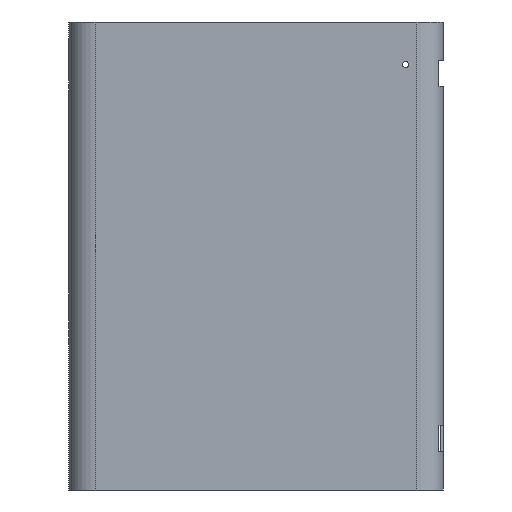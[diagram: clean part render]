
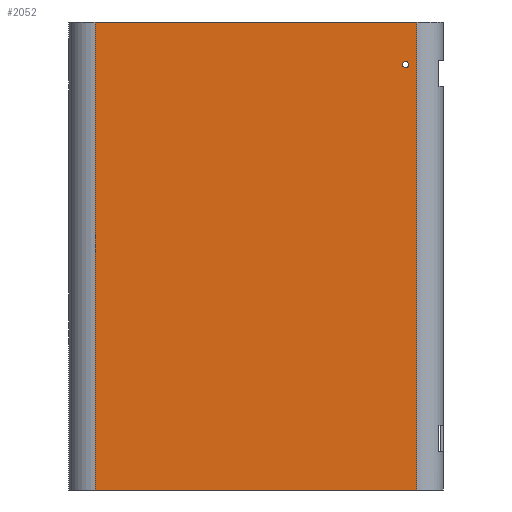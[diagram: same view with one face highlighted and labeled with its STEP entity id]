
A CAD part, left-side view. The second image highlights one B-rep face of the part: STEP entity #2052.
In plain terms, the highlighted planar face has unit normal (-1, 0, 0).
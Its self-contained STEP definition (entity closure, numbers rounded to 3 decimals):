
#44 = PLANE('',#45);
#45 = AXIS2_PLACEMENT_3D('',#46,#47,#48);
#46 = CARTESIAN_POINT('',(0.,0.,161.));
#47 = DIRECTION('',(0.,0.,1.));
#48 = DIRECTION('',(1.,0.,-0.));
#72 = CYLINDRICAL_SURFACE('',#73,30.);
#73 = AXIS2_PLACEMENT_3D('',#74,#75,#76);
#74 = CARTESIAN_POINT('',(-130.,-185.,161.));
#75 = DIRECTION('',(0.,0.,1.));
#76 = DIRECTION('',(0.,-1.,0.));
#556 = VERTEX_POINT('',#557);
#557 = CARTESIAN_POINT('',(-160.,185.,161.));
#572 = CYLINDRICAL_SURFACE('',#573,30.);
#573 = AXIS2_PLACEMENT_3D('',#574,#575,#576);
#574 = CARTESIAN_POINT('',(-130.,185.,161.));
#575 = DIRECTION('',(0.,0.,1.));
#576 = DIRECTION('',(-0.,1.,0.));
#584 = EDGE_CURVE('',#556,#585,#587,.T.);
#585 = VERTEX_POINT('',#586);
#586 = CARTESIAN_POINT('',(-160.,-185.,161.));
#587 = SURFACE_CURVE('',#588,(#592,#599),.PCURVE_S1.);
#588 = LINE('',#589,#590);
#589 = CARTESIAN_POINT('',(-160.,215.,161.));
#590 = VECTOR('',#591,1.);
#591 = DIRECTION('',(0.,-1.,0.));
#592 = PCURVE('',#44,#593);
#593 = DEFINITIONAL_REPRESENTATION('',(#594),#598);
#594 = LINE('',#595,#596);
#595 = CARTESIAN_POINT('',(-160.,215.));
#596 = VECTOR('',#597,1.);
#597 = DIRECTION('',(0.,-1.));
#598 = ( GEOMETRIC_REPRESENTATION_CONTEXT(2) 
PARAMETRIC_REPRESENTATION_CONTEXT() REPRESENTATION_CONTEXT('2D SPACE',''
  ) );
#599 = PCURVE('',#600,#605);
#600 = PLANE('',#601);
#601 = AXIS2_PLACEMENT_3D('',#602,#603,#604);
#602 = CARTESIAN_POINT('',(-160.,215.,161.));
#603 = DIRECTION('',(1.,0.,-0.));
#604 = DIRECTION('',(0.,-1.,0.));
#605 = DEFINITIONAL_REPRESENTATION('',(#606),#610);
#606 = LINE('',#607,#608);
#607 = CARTESIAN_POINT('',(0.,0.));
#608 = VECTOR('',#609,1.);
#609 = DIRECTION('',(1.,0.));
#610 = ( GEOMETRIC_REPRESENTATION_CONTEXT(2) 
PARAMETRIC_REPRESENTATION_CONTEXT() REPRESENTATION_CONTEXT('2D SPACE',''
  ) );
#905 = PLANE('',#906);
#906 = AXIS2_PLACEMENT_3D('',#907,#908,#909);
#907 = CARTESIAN_POINT('',(0.,0.,699.));
#908 = DIRECTION('',(0.,0.,1.));
#909 = DIRECTION('',(1.,0.,-0.));
#1644 = EDGE_CURVE('',#585,#1645,#1647,.T.);
#1645 = VERTEX_POINT('',#1646);
#1646 = CARTESIAN_POINT('',(-160.,-185.,699.));
#1647 = SURFACE_CURVE('',#1648,(#1652,#1659),.PCURVE_S1.);
#1648 = LINE('',#1649,#1650);
#1649 = CARTESIAN_POINT('',(-160.,-185.,161.));
#1650 = VECTOR('',#1651,1.);
#1651 = DIRECTION('',(0.,0.,1.));
#1652 = PCURVE('',#72,#1653);
#1653 = DEFINITIONAL_REPRESENTATION('',(#1654),#1658);
#1654 = LINE('',#1655,#1656);
#1655 = CARTESIAN_POINT('',(-1.571,0.));
#1656 = VECTOR('',#1657,1.);
#1657 = DIRECTION('',(-0.,1.));
#1658 = ( GEOMETRIC_REPRESENTATION_CONTEXT(2) 
PARAMETRIC_REPRESENTATION_CONTEXT() REPRESENTATION_CONTEXT('2D SPACE',''
  ) );
#1659 = PCURVE('',#600,#1660);
#1660 = DEFINITIONAL_REPRESENTATION('',(#1661),#1665);
#1661 = LINE('',#1662,#1663);
#1662 = CARTESIAN_POINT('',(400.,0.));
#1663 = VECTOR('',#1664,1.);
#1664 = DIRECTION('',(0.,-1.));
#1665 = ( GEOMETRIC_REPRESENTATION_CONTEXT(2) 
PARAMETRIC_REPRESENTATION_CONTEXT() REPRESENTATION_CONTEXT('2D SPACE',''
  ) );
#2052 = ADVANCED_FACE('',(#2053,#2101),#600,.F.);
#2053 = FACE_BOUND('',#2054,.F.);
#2054 = EDGE_LOOP('',(#2055,#2056,#2079,#2100));
#2055 = ORIENTED_EDGE('',*,*,#584,.F.);
#2056 = ORIENTED_EDGE('',*,*,#2057,.T.);
#2057 = EDGE_CURVE('',#556,#2058,#2060,.T.);
#2058 = VERTEX_POINT('',#2059);
#2059 = CARTESIAN_POINT('',(-160.,185.,699.));
#2060 = SURFACE_CURVE('',#2061,(#2065,#2072),.PCURVE_S1.);
#2061 = LINE('',#2062,#2063);
#2062 = CARTESIAN_POINT('',(-160.,185.,161.));
#2063 = VECTOR('',#2064,1.);
#2064 = DIRECTION('',(0.,0.,1.));
#2065 = PCURVE('',#600,#2066);
#2066 = DEFINITIONAL_REPRESENTATION('',(#2067),#2071);
#2067 = LINE('',#2068,#2069);
#2068 = CARTESIAN_POINT('',(30.,0.));
#2069 = VECTOR('',#2070,1.);
#2070 = DIRECTION('',(0.,-1.));
#2071 = ( GEOMETRIC_REPRESENTATION_CONTEXT(2) 
PARAMETRIC_REPRESENTATION_CONTEXT() REPRESENTATION_CONTEXT('2D SPACE',''
  ) );
#2072 = PCURVE('',#572,#2073);
#2073 = DEFINITIONAL_REPRESENTATION('',(#2074),#2078);
#2074 = LINE('',#2075,#2076);
#2075 = CARTESIAN_POINT('',(1.571,0.));
#2076 = VECTOR('',#2077,1.);
#2077 = DIRECTION('',(0.,1.));
#2078 = ( GEOMETRIC_REPRESENTATION_CONTEXT(2) 
PARAMETRIC_REPRESENTATION_CONTEXT() REPRESENTATION_CONTEXT('2D SPACE',''
  ) );
#2079 = ORIENTED_EDGE('',*,*,#2080,.T.);
#2080 = EDGE_CURVE('',#2058,#1645,#2081,.T.);
#2081 = SURFACE_CURVE('',#2082,(#2086,#2093),.PCURVE_S1.);
#2082 = LINE('',#2083,#2084);
#2083 = CARTESIAN_POINT('',(-160.,215.,699.));
#2084 = VECTOR('',#2085,1.);
#2085 = DIRECTION('',(0.,-1.,0.));
#2086 = PCURVE('',#600,#2087);
#2087 = DEFINITIONAL_REPRESENTATION('',(#2088),#2092);
#2088 = LINE('',#2089,#2090);
#2089 = CARTESIAN_POINT('',(0.,-538.));
#2090 = VECTOR('',#2091,1.);
#2091 = DIRECTION('',(1.,0.));
#2092 = ( GEOMETRIC_REPRESENTATION_CONTEXT(2) 
PARAMETRIC_REPRESENTATION_CONTEXT() REPRESENTATION_CONTEXT('2D SPACE',''
  ) );
#2093 = PCURVE('',#905,#2094);
#2094 = DEFINITIONAL_REPRESENTATION('',(#2095),#2099);
#2095 = LINE('',#2096,#2097);
#2096 = CARTESIAN_POINT('',(-160.,215.));
#2097 = VECTOR('',#2098,1.);
#2098 = DIRECTION('',(0.,-1.));
#2099 = ( GEOMETRIC_REPRESENTATION_CONTEXT(2) 
PARAMETRIC_REPRESENTATION_CONTEXT() REPRESENTATION_CONTEXT('2D SPACE',''
  ) );
#2100 = ORIENTED_EDGE('',*,*,#1644,.F.);
#2101 = FACE_BOUND('',#2102,.F.);
#2102 = EDGE_LOOP('',(#2103));
#2103 = ORIENTED_EDGE('',*,*,#2104,.T.);
#2104 = EDGE_CURVE('',#2105,#2105,#2107,.T.);
#2105 = VERTEX_POINT('',#2106);
#2106 = CARTESIAN_POINT('',(-160.,-168.5,650.));
#2107 = SURFACE_CURVE('',#2108,(#2113,#2124),.PCURVE_S1.);
#2108 = CIRCLE('',#2109,3.5);
#2109 = AXIS2_PLACEMENT_3D('',#2110,#2111,#2112);
#2110 = CARTESIAN_POINT('',(-160.,-172.,650.));
#2111 = DIRECTION('',(-1.,0.,0.));
#2112 = DIRECTION('',(0.,1.,0.));
#2113 = PCURVE('',#600,#2114);
#2114 = DEFINITIONAL_REPRESENTATION('',(#2115),#2123);
#2115 = ( BOUNDED_CURVE() B_SPLINE_CURVE(2,(#2116,#2117,#2118,#2119,
#2120,#2121,#2122),.UNSPECIFIED.,.T.,.F.) B_SPLINE_CURVE_WITH_KNOTS((1,2
    ,2,2,2,1),(-2.094,0.,2.094,4.189,
6.283,8.378),.UNSPECIFIED.) CURVE() 
GEOMETRIC_REPRESENTATION_ITEM() RATIONAL_B_SPLINE_CURVE((1.,0.5,1.,0.5,
1.,0.5,1.)) REPRESENTATION_ITEM('') );
#2116 = CARTESIAN_POINT('',(383.5,-489.));
#2117 = CARTESIAN_POINT('',(383.5,-482.938));
#2118 = CARTESIAN_POINT('',(388.75,-485.969));
#2119 = CARTESIAN_POINT('',(394.,-489.));
#2120 = CARTESIAN_POINT('',(388.75,-492.031));
#2121 = CARTESIAN_POINT('',(383.5,-495.062));
#2122 = CARTESIAN_POINT('',(383.5,-489.));
#2123 = ( GEOMETRIC_REPRESENTATION_CONTEXT(2) 
PARAMETRIC_REPRESENTATION_CONTEXT() REPRESENTATION_CONTEXT('2D SPACE',''
  ) );
#2124 = PCURVE('',#2125,#2130);
#2125 = CYLINDRICAL_SURFACE('',#2126,3.5);
#2126 = AXIS2_PLACEMENT_3D('',#2127,#2128,#2129);
#2127 = CARTESIAN_POINT('',(-161.,-172.,650.));
#2128 = DIRECTION('',(-1.,-0.,-0.));
#2129 = DIRECTION('',(0.,1.,0.));
#2130 = DEFINITIONAL_REPRESENTATION('',(#2131),#2135);
#2131 = LINE('',#2132,#2133);
#2132 = CARTESIAN_POINT('',(-6.283,-1.));
#2133 = VECTOR('',#2134,1.);
#2134 = DIRECTION('',(1.,-0.));
#2135 = ( GEOMETRIC_REPRESENTATION_CONTEXT(2) 
PARAMETRIC_REPRESENTATION_CONTEXT() REPRESENTATION_CONTEXT('2D SPACE',''
  ) );
